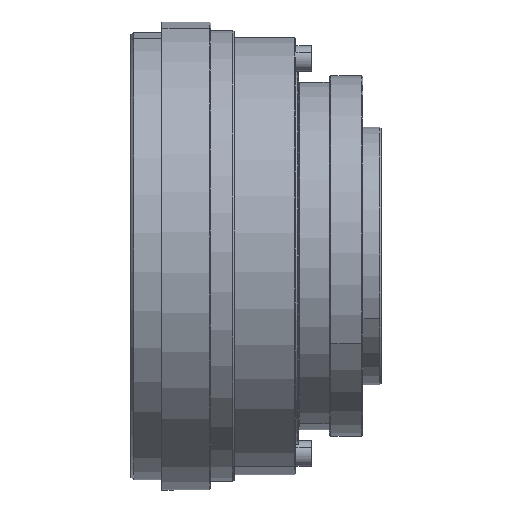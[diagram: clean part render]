
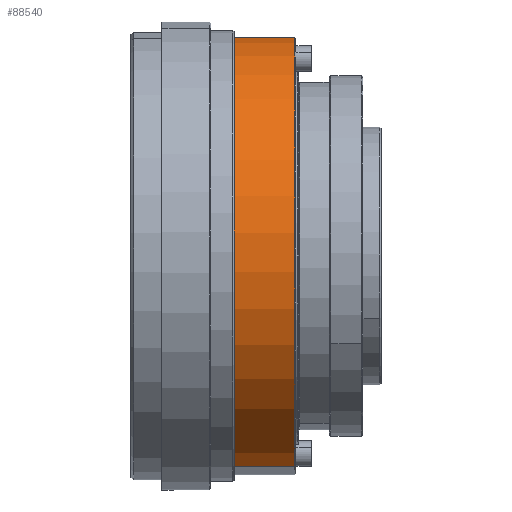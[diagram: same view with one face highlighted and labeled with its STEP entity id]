
A CAD part, front view. The second image highlights one B-rep face of the part: STEP entity #88540.
In plain terms, the highlighted cylindrical face has radius 85 mm (diameter 170 mm), a partial arc.
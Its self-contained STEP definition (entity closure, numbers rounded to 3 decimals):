
#4013 = CARTESIAN_POINT ( 'NONE',  ( 25.5, -23.279, -81.75 ) ) ;
#6352 = LINE ( 'NONE', #70826, #27769 ) ;
#6664 = CARTESIAN_POINT ( 'NONE',  ( 53.5, 23.279, 81.75 ) ) ;
#8106 = ORIENTED_EDGE ( 'NONE', *, *, #41061, .F. ) ;
#15175 = EDGE_CURVE ( 'NONE', #72658, #85392, #6352, .T. ) ;
#17205 = CARTESIAN_POINT ( 'NONE',  ( 25.5, 0., 0. ) ) ;
#20208 = ORIENTED_EDGE ( 'NONE', *, *, #55160, .T. ) ;
#21228 = AXIS2_PLACEMENT_3D ( 'NONE', #28599, #87164, #58946 ) ;
#23139 = CARTESIAN_POINT ( 'NONE',  ( 25.5, 23.279, 81.75 ) ) ;
#27769 = VECTOR ( 'NONE', #77534, 1000. ) ;
#28159 = DIRECTION ( 'NONE',  ( -1., 0., 0. ) ) ;
#28407 = CIRCLE ( 'NONE', #56130, 85. ) ;
#28599 = CARTESIAN_POINT ( 'NONE',  ( 53.5, 0., 0. ) ) ;
#41061 = EDGE_CURVE ( 'NONE', #74506, #85392, #28407, .T. ) ;
#43154 = CYLINDRICAL_SURFACE ( 'NONE', #78821, 85. ) ;
#44227 = EDGE_CURVE ( 'NONE', #51440, #74506, #62828, .T. ) ;
#50337 = CARTESIAN_POINT ( 'NONE',  ( 25., 0., 0. ) ) ;
#51440 = VERTEX_POINT ( 'NONE', #53211 ) ;
#53211 = CARTESIAN_POINT ( 'NONE',  ( 53.5, -23.279, -81.75 ) ) ;
#55160 = EDGE_CURVE ( 'NONE', #51440, #72658, #93261, .T. ) ;
#56130 = AXIS2_PLACEMENT_3D ( 'NONE', #17205, #91130, #76263 ) ;
#58946 = DIRECTION ( 'NONE',  ( 0., 0.274, 0.962 ) ) ;
#59744 = ORIENTED_EDGE ( 'NONE', *, *, #44227, .F. ) ;
#62828 = LINE ( 'NONE', #84383, #82374 ) ;
#69234 = ORIENTED_EDGE ( 'NONE', *, *, #15175, .T. ) ;
#70826 = CARTESIAN_POINT ( 'NONE',  ( 25., 23.279, 81.75 ) ) ;
#72658 = VERTEX_POINT ( 'NONE', #6664 ) ;
#74506 = VERTEX_POINT ( 'NONE', #4013 ) ;
#76263 = DIRECTION ( 'NONE',  ( 0., 0.274, 0.962 ) ) ;
#77534 = DIRECTION ( 'NONE',  ( -1., 0., 0. ) ) ;
#78821 = AXIS2_PLACEMENT_3D ( 'NONE', #50337, #28159, #94444 ) ;
#82374 = VECTOR ( 'NONE', #85304, 1000. ) ;
#84353 = FACE_OUTER_BOUND ( 'NONE', #91524, .T. ) ;
#84383 = CARTESIAN_POINT ( 'NONE',  ( 25., -23.279, -81.75 ) ) ;
#85304 = DIRECTION ( 'NONE',  ( -1., 0., 0. ) ) ;
#85392 = VERTEX_POINT ( 'NONE', #23139 ) ;
#87164 = DIRECTION ( 'NONE',  ( -1., 0., 0. ) ) ;
#88540 = ADVANCED_FACE ( 'NONE', ( #84353 ), #43154, .T. ) ;
#91130 = DIRECTION ( 'NONE',  ( -1., 0., 0. ) ) ;
#91524 = EDGE_LOOP ( 'NONE', ( #59744, #20208, #69234, #8106 ) ) ;
#93261 = CIRCLE ( 'NONE', #21228, 85. ) ;
#94444 = DIRECTION ( 'NONE',  ( 0., 0.274, 0.962 ) ) ;
